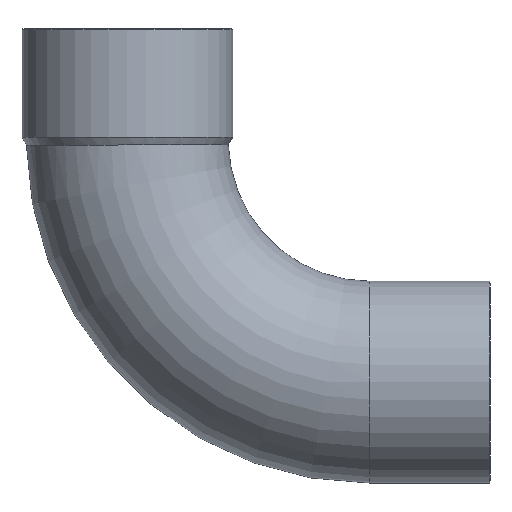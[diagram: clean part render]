
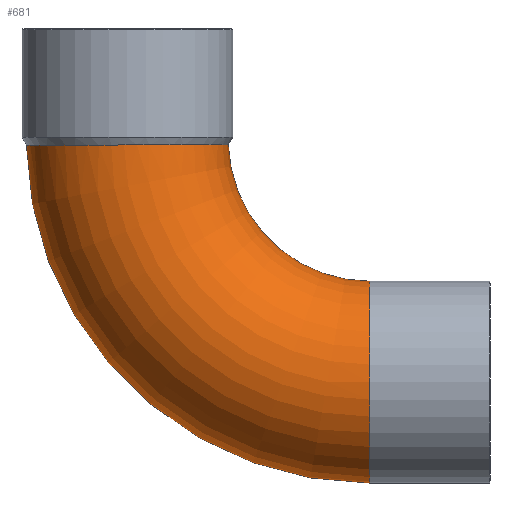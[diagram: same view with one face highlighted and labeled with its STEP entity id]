
A CAD part, front view. The second image highlights one B-rep face of the part: STEP entity #681.
In plain terms, the highlighted toroidal (fillet/blend) face has major radius 76.8 mm and minor radius 32 mm.
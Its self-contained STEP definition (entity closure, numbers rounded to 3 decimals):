
#49=CARTESIAN_POINT('',(-86.753,0.,-1.621));
#50=VERTEX_POINT('',#49);
#51=CARTESIAN_POINT('',(22.035,0.,-108.8));
#52=VERTEX_POINT('',#51);
#53=CARTESIAN_POINT('',(22.035,0.,0.0));
#54=DIRECTION('',(0.0,-1.0,0.0));
#55=DIRECTION('',(0.0,0.0,-1.0));
#56=AXIS2_PLACEMENT_3D('',#53,#54,#55);
#57=CIRCLE('',#56,108.8);
#58=EDGE_CURVE('',#50,#52,#57,.T.);
#60=CARTESIAN_POINT('',(-22.738,0.,-1.553));
#61=VERTEX_POINT('',#60);
#85=CARTESIAN_POINT('',(22.035,0.,-44.8));
#86=VERTEX_POINT('',#85);
#87=CARTESIAN_POINT('',(22.035,0.,0.0));
#88=DIRECTION('',(0.0,1.0,0.0));
#89=DIRECTION('',(0.0,0.0,-1.0));
#90=AXIS2_PLACEMENT_3D('',#87,#88,#89);
#91=CIRCLE('',#90,44.8);
#92=EDGE_CURVE('',#86,#61,#91,.T.);
#210=CARTESIAN_POINT('',(-22.738,0.,-1.553));
#211=CARTESIAN_POINT('',(-22.738,-0.279,-1.553));
#212=CARTESIAN_POINT('',(-22.742,-0.558,-1.553));
#213=CARTESIAN_POINT('',(-22.858,-5.002,-1.554));
#214=CARTESIAN_POINT('',(-23.78,-9.105,-1.556));
#215=CARTESIAN_POINT('',(-27.145,-16.73,-1.563));
#216=CARTESIAN_POINT('',(-29.557,-20.177,-1.568));
#217=CARTESIAN_POINT('',(-35.568,-25.955,-1.578));
#218=CARTESIAN_POINT('',(-39.109,-28.229,-1.583));
#219=CARTESIAN_POINT('',(-46.863,-31.292,-1.592));
#220=CARTESIAN_POINT('',(-51.002,-32.052,-1.597));
#221=CARTESIAN_POINT('',(-59.338,-31.942,-1.604));
#222=CARTESIAN_POINT('',(-63.455,-31.074,-1.607));
#223=CARTESIAN_POINT('',(-71.123,-27.808,-1.612));
#224=CARTESIAN_POINT('',(-74.602,-25.443,-1.615));
#225=CARTESIAN_POINT('',(-80.456,-19.511,-1.618));
#226=CARTESIAN_POINT('',(-82.775,-16.002,-1.619));
#227=CARTESIAN_POINT('',(-85.939,-8.293,-1.621));
#228=CARTESIAN_POINT('',(-86.753,-4.166,-1.621));
#229=CARTESIAN_POINT('',(-86.753,0.,-1.621));
#230=B_SPLINE_CURVE_WITH_KNOTS('',3,(#210,#211,#212,#213,#214,#215,#216,#217,#218,#219,#220,#221,#222,#223,#224,#225,#226,#227,#228,#229),.UNSPECIFIED.,.F.,.U.,(4,2,2,2,2,2,2,2,2,4),(-10.086,-10.002,-8.752,-7.502,-6.251,-5.,-3.75,-2.5,-1.25,0.0),.UNSPECIFIED.);
#231=EDGE_CURVE('',#61,#50,#230,.T.);
#537=CARTESIAN_POINT('',(22.035,0.,-76.8));
#538=DIRECTION('',(-1.0,0.0,0.0));
#539=DIRECTION('',(0.0,0.0,-1.0));
#540=AXIS2_PLACEMENT_3D('',#537,#538,#539);
#541=CIRCLE('',#540,32.0);
#542=EDGE_CURVE('',#52,#86,#541,.T.);
#670=CARTESIAN_POINT('',(22.035,0.,0.0));
#671=DIRECTION('',(0.0,-1.0,0.0));
#672=DIRECTION('',(0.0,0.0,-1.0));
#673=AXIS2_PLACEMENT_3D('',#670,#671,#672);
#674=TOROIDAL_SURFACE('',#673,76.8,32.0);
#675=ORIENTED_EDGE('',*,*,#58,.T.);
#676=ORIENTED_EDGE('',*,*,#542,.T.);
#677=ORIENTED_EDGE('',*,*,#92,.T.);
#678=ORIENTED_EDGE('',*,*,#231,.T.);
#679=EDGE_LOOP('',(#675,#676,#677,#678));
#680=FACE_OUTER_BOUND('',#679,.T.);
#681=ADVANCED_FACE('',(#680),#674,.T.);
